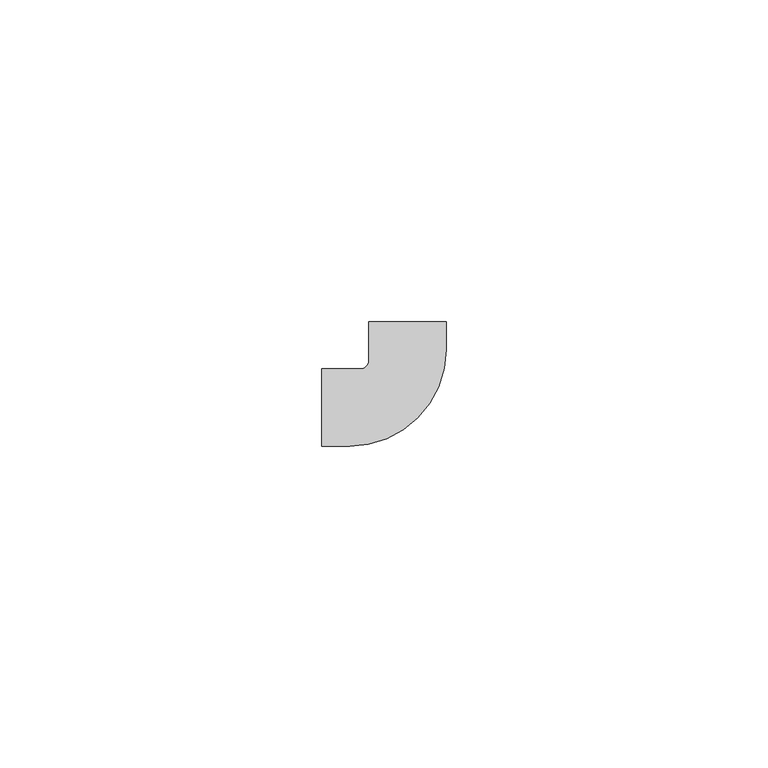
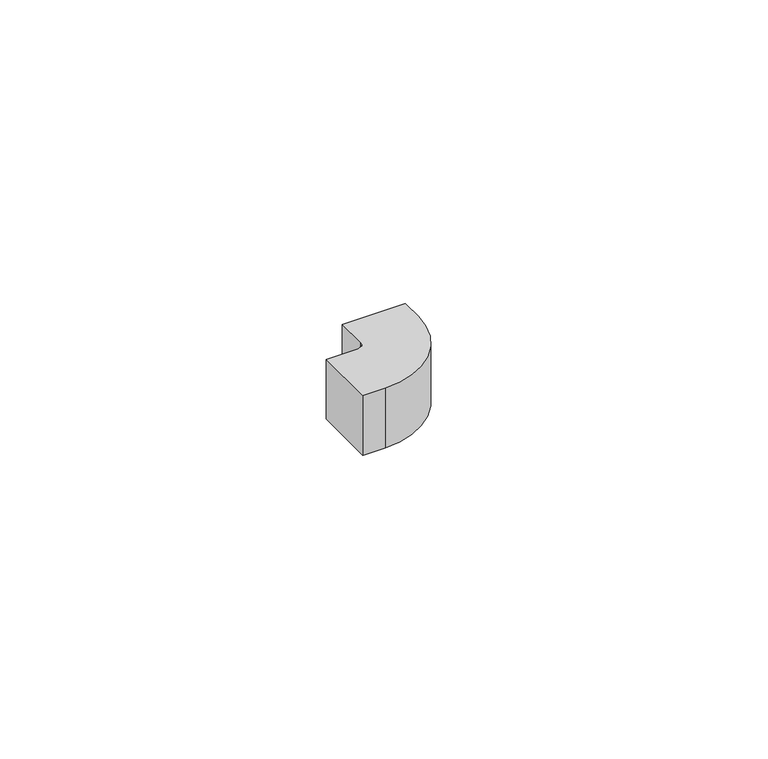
"""IFC4 building model written with IfcOpenShell, lengths in millimetres: duct fitting geometry, Поворот 90 гр. КМП : Поворот 90 гр. КМП."""

from ifc_helpers import new_model, si_unit, point, frame, frame_2d, origin, place, context, project, spatial, polyline, circle_curve, trimmed, segment, composite_curve, outline, extrude, source, transform, mapped, element, save


def duct_fitting_4e3f77ef(model_context):
    return source(origin(), model_context, "Body", "SweptSolid", [
        extrude(outline(composite_curve([segment(polyline([(-6.0, 7.31), (-6.0, 13.31), (6.0, 13.31), (6.0, 9.0)]), True, "CONTINUOUS"), segment(trimmed(circle_curve(frame_2d((-9.0, 9.0)), 15.0), [point((6.0, 9.0))], [point((-9.0, -6.0))], False, "CARTESIAN"), True, "CONTINUOUS"), segment(polyline([(-9.0, -6.0), (-13.31, -6.0), (-13.31, 6.0), (-7.31, 6.0)]), True, "CONTINUOUS"), segment(trimmed(circle_curve(frame_2d((-7.31, 7.31)), 1.31), [point((-7.31, 6.0))], [point((-6.0, 7.31))], True, "CARTESIAN"), True, "CONTINUOUS")], self_intersect=False)), frame((0.0, 0.0, -6.0), z_axis=(0.0, 0.0, 1.0), x_axis=(1.0, 0.0, 0.0)), (0.0, 0.0, 1.0), 12.0),
    ])


if __name__ == "__main__":
    model = new_model("IFC4")
    model_context = context("Model", 3, world=origin())
    ifc_project = project(units=[si_unit("LENGTHUNIT", "METRE", prefix="MILLI")], contexts=[model_context])
    site = spatial("IfcSite", under=ifc_project)
    building = spatial("IfcBuilding", under=site)
    placement = place(None, origin())
    duct_fitting_shape = duct_fitting_4e3f77ef(model_context)
    element("IfcDuctFitting", 1, ObjectType="Поворот 90 гр. КМП : Поворот 90 гр. КМП", at=placement, inside=building, context=model_context, shape_type="MappedRepresentation", body=[
        mapped(duct_fitting_shape, transform((0.0, 0.0, 0.0), x_axis=(1.0, 0.0, 0.0), y_axis=(0.0, 1.0, 0.0), z_axis=(0.0, 0.0, 1.0))),
    ])
    save(model, "model.ifc")
